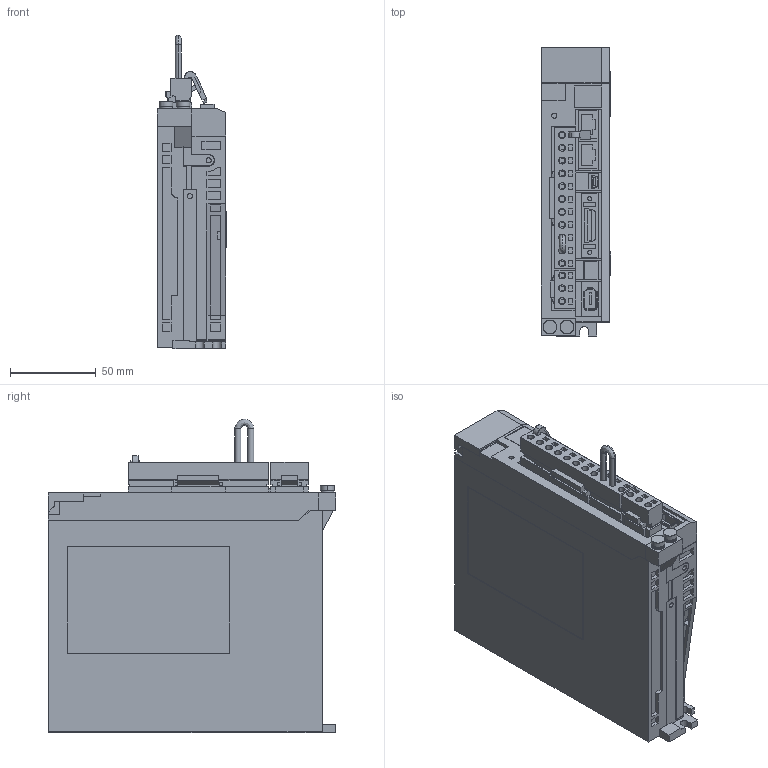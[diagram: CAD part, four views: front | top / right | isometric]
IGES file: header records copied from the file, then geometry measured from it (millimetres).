
Start section: SolidWorks IGES file using analytic representation for surfaces
Global section: file name: D:\YASKAWA\sgdxs_r90a__a.IGS; native system: SolidWorks 2006 by SolidWorks Corporation; preprocessor: SolidWorks 2006 by SolidWorks Corporation; author: yamanouchi; date: 210219.102410; units: millimetre
Bounding box: 40.5 x 168 x 183 mm (x, y, z)
Surface area: 130197.5 mm2 (no closed solid volume)
Topology: 0 solids, 0 shells, 1581 faces, 11912 edges, 11912 vertices
Faces by surface type: bspline 1448, revolution 133
